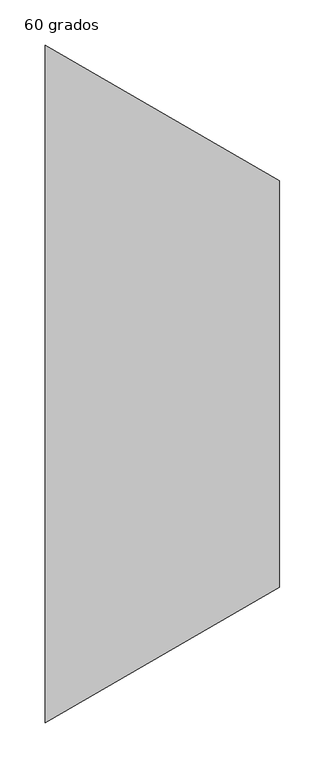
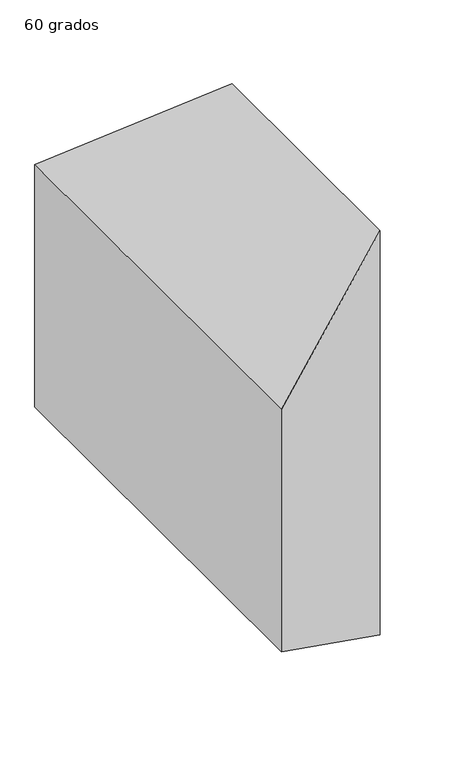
"""IFC4 building model written with IfcOpenShell, lengths in millimetres: duct fitting geometry, M_Transición rectangular - Ángulo : 60 grados."""

from ifc_helpers import new_model, si_unit, origin, place, context, project, spatial, faceted_brep, source, transform, mapped, element, save


def duct_fitting_60_grados_6e84c08d(model_context):
    return source(origin(), model_context, "Body", "Brep", [
        faceted_brep([(259.8076211, -225.0, 375.0), (259.8076211, -225.0, -375.0), (259.8076211, 225.0, -375.0), (259.8076211, 225.0, 375.0), (0.0, -375.0, 225.0), (0.0, 375.0, 225.0), (0.0, 375.0, -225.0), (0.0, -375.0, -225.0)], [[[0, 1, 2, 3]], [[4, 5, 6, 7]], [[4, 7, 1, 0]], [[7, 6, 2, 1]], [[6, 5, 3, 2]], [[5, 4, 0, 3]]]),
    ])


if __name__ == "__main__":
    model = new_model("IFC4")
    model_context = context("Model", 3, world=origin())
    ifc_project = project(units=[si_unit("LENGTHUNIT", "METRE", prefix="MILLI")], contexts=[model_context])
    site = spatial("IfcSite", under=ifc_project)
    building = spatial("IfcBuilding", under=site)
    placement = place(None, origin())
    duct_fitting_60_grados_shape = duct_fitting_60_grados_6e84c08d(model_context)
    element("IfcDuctFitting", 1, ObjectType="M_Transición rectangular - Ángulo : 60 grados", at=placement, inside=building, context=model_context, shape_type="MappedRepresentation", body=[
        mapped(duct_fitting_60_grados_shape, transform((0.0, 0.0, 0.0), x_axis=(1.0, 0.0, 0.0), y_axis=(0.0, 1.0, 0.0), z_axis=(0.0, 0.0, 1.0))),
    ])
    save(model, "model.ifc")
